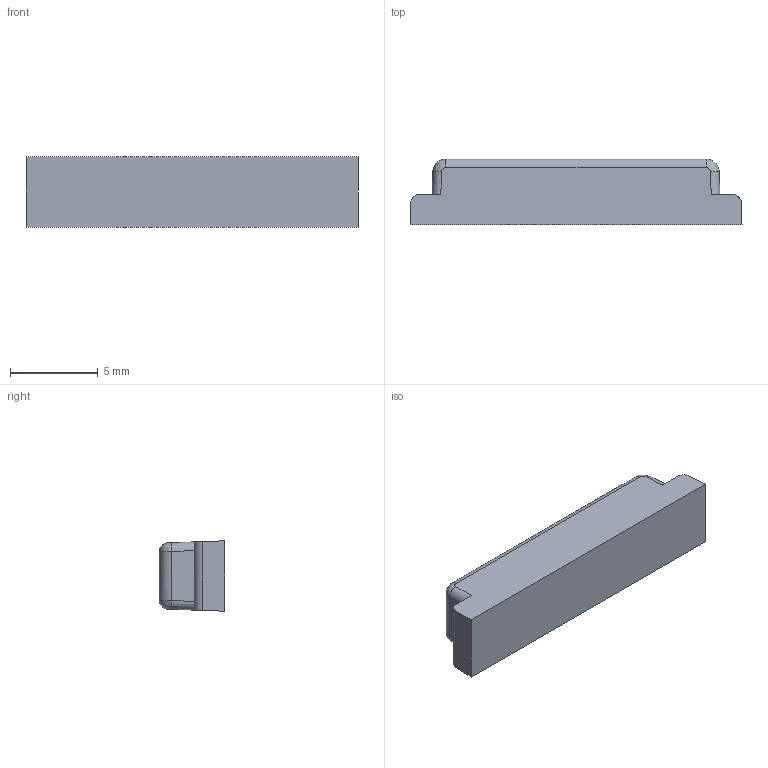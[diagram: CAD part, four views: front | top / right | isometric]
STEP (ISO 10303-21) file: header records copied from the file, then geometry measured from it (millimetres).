
FILE_DESCRIPTION(/* description */ (''),/* implementation_level */ '2;1');
FILE_NAME(/* name */ 'powerButton.step',/* time_stamp */ '2026-07-04T13:58:55-07:00',/* author */ (''),/* organization */ (''),/* preprocessor_version */ 'ST-DEVELOPER v20.1',/* originating_system */ 'Autodesk Translation Framework v15.8.0.0',/* authorisation */ '');
FILE_SCHEMA (('AUTOMOTIVE_DESIGN { 1 0 10303 214 3 1 1 }'));
Length unit declared in the file: millimetre
Products named in the file (1): powerButton
Bounding box: 18.97 x 3.75 x 4.02 mm (x, y, z)
Volume: 253.4 mm3; surface area: 295.8 mm2
Topology: 1 solids, 1 shells, 24 faces, 58 edges, 36 vertices
Faces by surface type: cylinder 10, plane 10, bspline 4
Entity records: 819 total; most frequent: CARTESIAN_POINT 215, DIRECTION 124, ORIENTED_EDGE 116, EDGE_CURVE 58, AXIS2_PLACEMENT_3D 45, VERTEX_POINT 36, LINE 34, VECTOR 34
